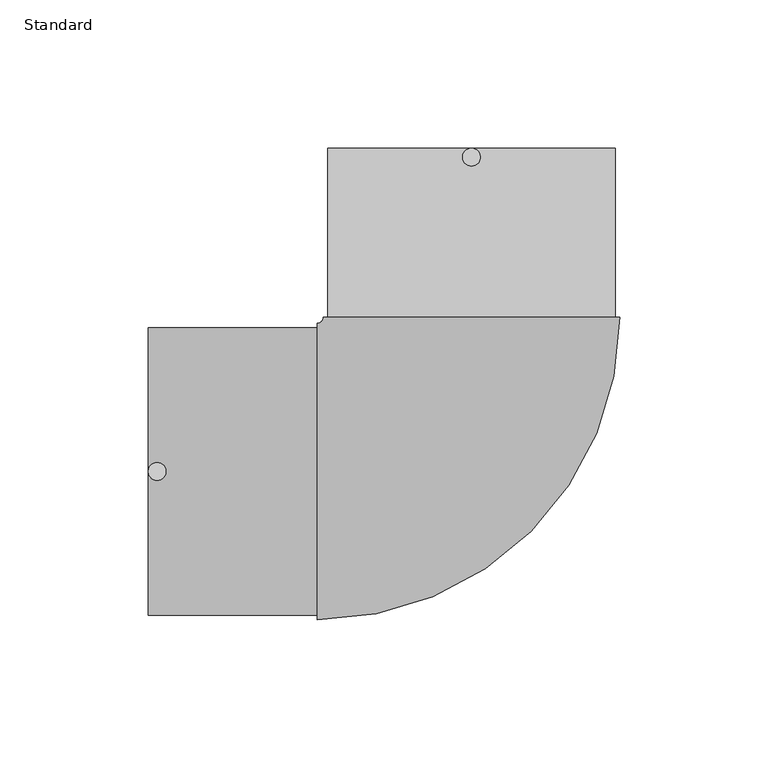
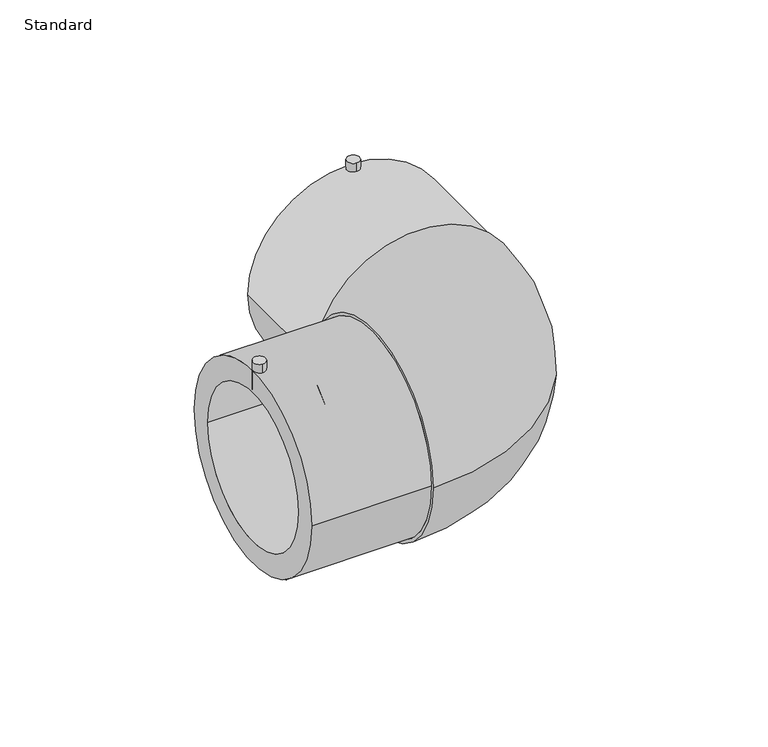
"""IFC4 building model written with IfcOpenShell, lengths in millimetres: pipe fitting geometry, EGB_VASEN_ PPR_Codo electrosoldable 90 WXRD200_Codo electrosoldable 45 WXRD220 : Standard."""

from ifc_helpers import new_model, si_unit, point, frame, frame_2d, origin, place, context, project, spatial, polyline, circle_curve, ellipse_curve, trimmed, segment, composite_curve, outline, extrude, source, transform, mapped, element, save
from ifc_brep_helpers import plane_surface, cylinder_surface, revolved_surface, advanced_brep


def standard_99bf721f(model_context):
    return source(origin(), model_context, "Body", "SolidModel", [
        advanced_brep(
        [(-109.0, -48.5, 0.0), (-109.0, 48.5, 0.0), (-109.0, -37.5, 0.0), (-109.0, 37.5, 0.0), (-52.0, -48.5, 0.0), (-52.0, 48.5, 0.0), (-52.0, -37.5, 0.0), (-52.0, 37.5, 0.0), (-52.0, -50.0, 0.0), (-52.0, 50.0, 0.0), (50.0, 52.0, 0.0), (-50.0, 52.0, 0.0), (48.5, 52.0, 0.0), (-48.5, 52.0, 0.0), (37.5, 52.0, 0.0), (-37.5, 52.0, 0.0), (48.5, 109.0, 0.0), (-48.5, 109.0, 0.0), (37.5, 109.0, 0.0), (-37.5, 109.0, 0.0)],
        [
            (0, 1, circle_curve(frame((-109.0, 0.0, 0.0), z_axis=(-1.0, 0.0, 0.0), x_axis=(0.0, 1.0, 0.0)), 48.5)),
            (1, 0, circle_curve(frame((-109.0, 0.0, 0.0), z_axis=(-1.0, 0.0, 0.0), x_axis=(0.0, 1.0, 0.0)), 48.5)),
            (2, 3, circle_curve(frame((-109.0, 0.0, 0.0), z_axis=(1.0, 0.0, 0.0), x_axis=(0.0, 1.0, 0.0)), 37.5)),
            (3, 2, circle_curve(frame((-109.0, 0.0, 0.0), z_axis=(1.0, 0.0, 0.0), x_axis=(0.0, 1.0, 0.0)), 37.5)),
            (0, 4),
            (4, 5, circle_curve(frame((-52.0, 0.0, 0.0), z_axis=(-1.0, 0.0, 0.0), x_axis=(0.0, 1.0, 0.0)), 48.5)),
            (5, 1),
            (5, 4, circle_curve(frame((-52.0, 0.0, 0.0), z_axis=(-1.0, 0.0, 0.0), x_axis=(0.0, 1.0, 0.0)), 48.5)),
            (2, 6),
            (6, 7, circle_curve(frame((-52.0, 0.0, 0.0), z_axis=(1.0, 0.0, 0.0), x_axis=(0.0, 1.0, 0.0)), 37.5)),
            (7, 3),
            (7, 6, circle_curve(frame((-52.0, 0.0, 0.0), z_axis=(1.0, 0.0, 0.0), x_axis=(0.0, 1.0, 0.0)), 37.5)),
            (8, 9, circle_curve(frame((-52.0, 0.0, 0.0), z_axis=(-1.0, 0.0, 0.0), x_axis=(0.0, 1.0, 0.0)), 50.0)),
            (9, 8, circle_curve(frame((-52.0, 0.0, 0.0), z_axis=(-1.0, 0.0, 0.0), x_axis=(0.0, 1.0, 0.0)), 50.0)),
            (10, 11, circle_curve(frame((0.0, 52.0, 0.0), z_axis=(0.0, 1.0, 0.0), x_axis=(-1.0, 0.0, 0.0)), 50.0)),
            (11, 10, circle_curve(frame((0.0, 52.0, 0.0), z_axis=(0.0, 1.0, 0.0), x_axis=(-1.0, 0.0, 0.0)), 50.0)),
            (12, 13, circle_curve(frame((0.0, 52.0, 0.0), z_axis=(0.0, -1.0, 0.0), x_axis=(-1.0, 0.0, 0.0)), 48.5)),
            (13, 12, circle_curve(frame((0.0, 52.0, 0.0), z_axis=(0.0, -1.0, 0.0), x_axis=(-1.0, 0.0, 0.0)), 48.5)),
            (14, 15, circle_curve(frame((0.0, 52.0, 0.0), z_axis=(0.0, 1.0, 0.0), x_axis=(-1.0, 0.0, 0.0)), 37.5)),
            (15, 14, circle_curve(frame((0.0, 52.0, 0.0), z_axis=(0.0, 1.0, 0.0), x_axis=(-1.0, 0.0, 0.0)), 37.5)),
            (8, 10, circle_curve(frame((-52.0, 52.0, 0.0), z_axis=(0.0, 0.0, 1.0), x_axis=(0.0, -1.0, 0.0)), 102.0)),
            (11, 9, circle_curve(frame((-52.0, 52.0, 0.0), z_axis=(0.0, 0.0, -1.0), x_axis=(0.0, -1.0, 0.0)), 2.0)),
            (16, 17, circle_curve(frame((0.0, 109.0, 0.0), z_axis=(0.0, 1.0, 0.0), x_axis=(-1.0, 0.0, 0.0)), 48.5)),
            (17, 16, circle_curve(frame((0.0, 109.0, 0.0), z_axis=(0.0, 1.0, 0.0), x_axis=(-1.0, 0.0, 0.0)), 48.5)),
            (18, 19, circle_curve(frame((0.0, 109.0, 0.0), z_axis=(0.0, -1.0, 0.0), x_axis=(-1.0, 0.0, 0.0)), 37.5)),
            (19, 18, circle_curve(frame((0.0, 109.0, 0.0), z_axis=(0.0, -1.0, 0.0), x_axis=(-1.0, 0.0, 0.0)), 37.5)),
            (17, 13),
            (12, 16),
            (19, 15),
            (14, 18),
        ],
        [
            plane_surface(frame((-109.0, 0.0, 0.0), z_axis=(-1.0, 0.0, 0.0), x_axis=(0.0, 0.0, 1.0))),
            cylinder_surface(frame((-109.0, 0.0, 0.0), z_axis=(-1.0, 0.0, 0.0), x_axis=(0.0, 1.0, 0.0)), 48.5),
            revolved_surface(polyline([(-52.0, 37.5, 0.0), (-109.0, 37.5, 0.0)]), (-109.0, 0.0, 0.0), (1.0, 0.0, 0.0)),
            plane_surface(frame((-52.0, 0.0, 0.0), z_axis=(-1.0, 0.0, 0.0), x_axis=(0.0, 0.0, 1.0))),
            plane_surface(frame((0.0, 52.0, 0.0), z_axis=(0.0, 1.0, 0.0), x_axis=(0.0, 0.0, 1.0))),
            revolved_surface(trimmed(ellipse_curve(frame((-52.0, 0.0, 0.0), z_axis=(-1.0, 0.0, 0.0), x_axis=(0.0, 1.0, 0.0)), 50.0, 50.0), [point((-52.0, -50.0, 0.0))], [point((-52.0, 50.0, 0.0))], True, "CARTESIAN"), (-52.0, 52.0, 0.0), (0.0, 0.0, 1.0)),
            revolved_surface(trimmed(ellipse_curve(frame((-52.0, 0.0, 0.0), z_axis=(-1.0, 0.0, 0.0), x_axis=(0.0, 1.0, 0.0)), 50.0, 50.0), [point((-52.0, 50.0, 0.0))], [point((-52.0, -50.0, 0.0))], True, "CARTESIAN"), (-52.0, 52.0, 0.0), (0.0, 0.0, 1.0)),
            plane_surface(frame((0.0, 109.0, 0.0), z_axis=(0.0, 1.0, 0.0), x_axis=(0.0, 0.0, 1.0))),
            cylinder_surface(frame((0.0, 52.0, 0.0), z_axis=(0.0, -1.0, 0.0), x_axis=(-1.0, 0.0, 0.0)), 48.5),
            revolved_surface(polyline([(-37.5, 109.0, 0.0), (-37.5, 52.0, 0.0)]), (0.0, 52.0, 0.0), (0.0, 1.0, 0.0)),
        ],
        [
            (0, [[1, 2], [3, 4]]),
            (1, [[-1, 5, 6, 7]]),
            (1, [[-2, -7, 8, -5]]),
            (2, [[-3, 9, 10, 11]]),
            (2, [[-4, -11, 12, -9]]),
            (3, [[-10, -12]]),
            (3, [[13, 14], [-6, -8]]),
            (4, [[15, 16], [17, 18]]),
            (4, [[19, 20]]),
            (5, [[-13, 21, -16, 22]]),
            (6, [[-14, -22, -15, -21]]),
            (7, [[23, 24], [25, 26]]),
            (8, [[-24, 27, -17, 28]]),
            (8, [[-23, -28, -18, -27]]),
            (9, [[-26, 29, -19, 30]]),
            (9, [[-25, -30, -20, -29]]),
        ],
    ),
        extrude(outline(composite_curve([segment(trimmed(circle_curve(frame_2d((0.0, 106.0)), 3.0), [point((0.0, 103.0))], [point((0.0, 109.0))], False, "CARTESIAN"), True, "CONTINUOUS"), segment(trimmed(circle_curve(frame_2d((0.0, 106.0)), 3.0), [point((0.0, 109.0))], [point((0.0, 103.0))], False, "CARTESIAN"), True, "CONTINUOUS")], self_intersect=False)), frame((0.0, 0.0, 38.5), z_axis=(0.0, 0.0, 1.0), x_axis=(1.0, 0.0, 0.0)), (0.0, 0.0, 1.0), 14.5),
        extrude(outline(composite_curve([segment(trimmed(circle_curve(frame_2d((-106.0, 0.0)), 3.0), [point((-106.0, -3.0))], [point((-106.0, 3.0))], False, "CARTESIAN"), True, "CONTINUOUS"), segment(trimmed(circle_curve(frame_2d((-106.0, 0.0)), 3.0), [point((-106.0, 3.0))], [point((-106.0, -3.0))], False, "CARTESIAN"), True, "CONTINUOUS")], self_intersect=False)), frame((0.0, 0.0, 38.5), z_axis=(0.0, 0.0, 1.0), x_axis=(1.0, 0.0, 0.0)), (0.0, 0.0, 1.0), 14.5),
    ])


if __name__ == "__main__":
    model = new_model("IFC4")
    model_context = context("Model", 3, world=origin())
    ifc_project = project(units=[si_unit("LENGTHUNIT", "METRE", prefix="MILLI")], contexts=[model_context])
    site = spatial("IfcSite", under=ifc_project)
    building = spatial("IfcBuilding", under=site)
    placement = place(None, origin())
    standard_shape = standard_99bf721f(model_context)
    element("IfcPipeFitting", 1, ObjectType="EGB_VASEN_ PPR_Codo electrosoldable 90 WXRD200_Codo electrosoldable 45 WXRD220 : Standard", at=placement, inside=building, context=model_context, shape_type="MappedRepresentation", body=[
        mapped(standard_shape, transform((0.0, 0.0, 0.0), x_axis=(1.0, 0.0, 0.0), y_axis=(0.0, 1.0, 0.0), z_axis=(0.0, 0.0, 1.0))),
    ])
    save(model, "model.ifc")
